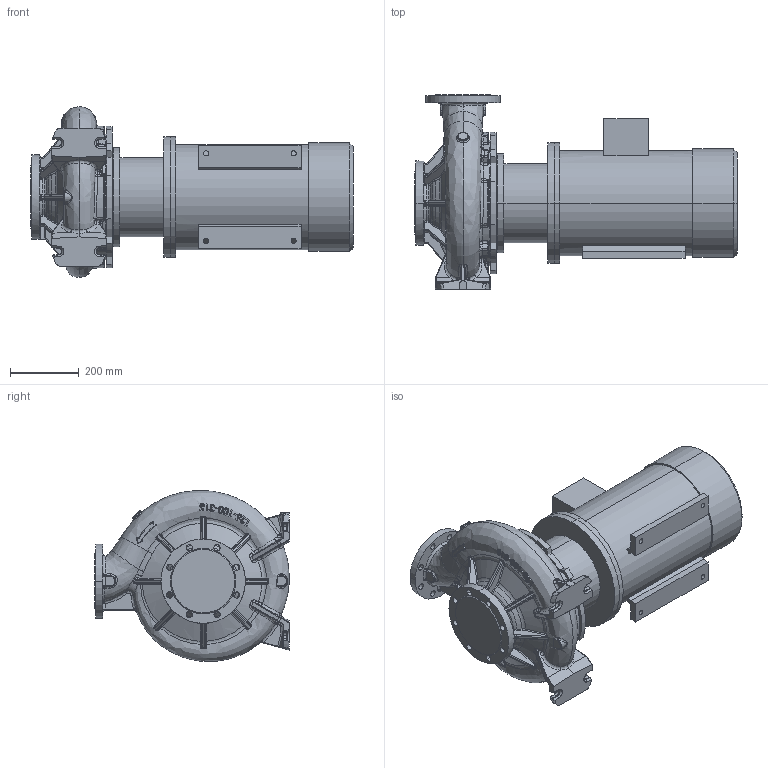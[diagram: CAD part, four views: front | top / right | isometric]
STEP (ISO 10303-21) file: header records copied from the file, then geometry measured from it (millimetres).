
FILE_DESCRIPTION (( 'STEP AP203' ), '1' );
FILE_NAME ('KRM 125-100-315-4-15.STEP', '2026-05-15T12:17:30', ( '' ), ( '' ), 'SwSTEP 2.0', 'SolidWorks 2016', '' );
FILE_SCHEMA (( 'CONFIG_CONTROL_DESIGN' ));
Length unit declared in the file: millimetre
Products named in the file (1): KRM 125-100-315-4-15
Bounding box: 935.8 x 565 x 496.82 mm (x, y, z)
Volume: 80622940.4 mm3; surface area: 2459699.3 mm2
Topology: 12 solids, 12 shells, 1418 faces, 3411 edges, 2018 vertices
Faces by surface type: bspline 657, cylinder 284, plane 269, torus 98, cone 86, sphere 24
Entity records: 94158 total; most frequent: CARTESIAN_POINT 66367, ORIENTED_EDGE 6742, DIRECTION 4493, EDGE_CURVE 3371, VERTEX_POINT 2018, AXIS2_PLACEMENT_3D 1872, EDGE_LOOP 1499, FACE_OUTER_BOUND 1418
